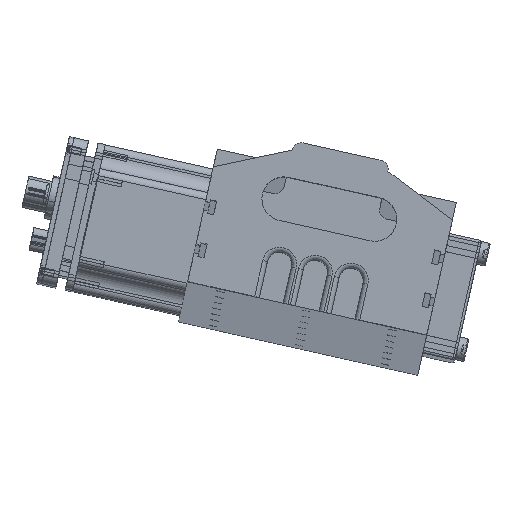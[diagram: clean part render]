
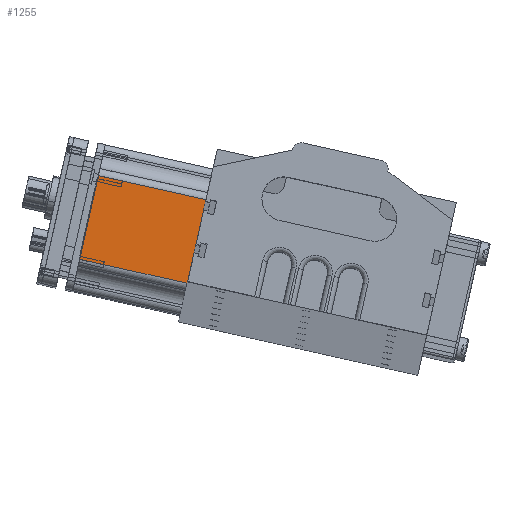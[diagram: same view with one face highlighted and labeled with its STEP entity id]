
A CAD part, front view. The second image highlights one B-rep face of the part: STEP entity #1255.
In plain terms, the highlighted planar face has unit normal (0.003, -1, 0.012) as drawn and (0, 0, 1) by its records, which use the part's own axes.
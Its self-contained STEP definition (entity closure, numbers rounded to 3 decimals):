
#141 = EDGE_CURVE ( 'NONE', #36296, #40871, #3433, .T. ) ;
#144 = VERTEX_POINT ( 'NONE', #3428 ) ;
#857 = ORIENTED_EDGE ( 'NONE', *, *, #141, .T. ) ;
#885 = EDGE_CURVE ( 'NONE', #45926, #40871, #5223, .T. ) ;
#1014 = ORIENTED_EDGE ( 'NONE', *, *, #34348, .F. ) ;
#1127 = ORIENTED_EDGE ( 'NONE', *, *, #45474, .F. ) ;
#1255 = ADVANCED_FACE ( 'NONE', ( #6030 ), #5976, .F. ) ;
#1986 = EDGE_CURVE ( 'NONE', #45192, #144, #7569, .T. ) ;
#3425 = DIRECTION ( 'NONE',  ( 1., 0., 0. ) ) ;
#3426 = VECTOR ( 'NONE', #3425, 1000. ) ;
#3427 = CARTESIAN_POINT ( 'NONE',  ( -24.5, 0., 30.5 ) ) ;
#3428 = CARTESIAN_POINT ( 'NONE',  ( 17.5, 94., 30.5 ) ) ;
#3433 = LINE ( 'NONE', #3427, #3426 ) ;
#5214 = DIRECTION ( 'NONE',  ( 0., -1., 0. ) ) ;
#5215 = VECTOR ( 'NONE', #5214, 1000. ) ;
#5216 = CARTESIAN_POINT ( 'NONE',  ( 24.5, 7., 30.5 ) ) ;
#5223 = LINE ( 'NONE', #5216, #5215 ) ;
#5976 = PLANE ( 'NONE',  #6018 ) ;
#6007 = DIRECTION ( 'NONE',  ( -1., 0., 0. ) ) ;
#6008 = DIRECTION ( 'NONE',  ( 0., 0., -1. ) ) ;
#6009 = CARTESIAN_POINT ( 'NONE',  ( -24.5, 7., 30.5 ) ) ;
#6018 = AXIS2_PLACEMENT_3D ( 'NONE', #6009, #6008, #6007 ) ;
#6030 = FACE_OUTER_BOUND ( 'NONE', #41210, .T. ) ;
#7547 = DIRECTION ( 'NONE',  ( 1., 0., 0. ) ) ;
#7548 = VECTOR ( 'NONE', #7547, 1000. ) ;
#7550 = CARTESIAN_POINT ( 'NONE',  ( 26.5, 94., 30.5 ) ) ;
#7569 = LINE ( 'NONE', #7550, #7548 ) ;
#12648 = ORIENTED_EDGE ( 'NONE', *, *, #14392, .F. ) ;
#13924 = EDGE_CURVE ( 'NONE', #45290, #45926, #23686, .T. ) ;
#14392 = EDGE_CURVE ( 'NONE', #144, #45290, #24512, .T. ) ;
#23674 = DIRECTION ( 'NONE',  ( 1., 0., 0. ) ) ;
#23675 = VECTOR ( 'NONE', #23674, 1000. ) ;
#23685 = CARTESIAN_POINT ( 'NONE',  ( -24.5, 7., 30.5 ) ) ;
#23686 = LINE ( 'NONE', #23685, #23675 ) ;
#24495 = DIRECTION ( 'NONE',  ( 0., -1., 0. ) ) ;
#24496 = VECTOR ( 'NONE', #24495, 1000. ) ;
#24511 = CARTESIAN_POINT ( 'NONE',  ( 17.5, 95.35, 30.5 ) ) ;
#24512 = LINE ( 'NONE', #24511, #24496 ) ;
#33699 = VERTEX_POINT ( 'NONE', #38244 ) ;
#34348 = EDGE_CURVE ( 'NONE', #33699, #34365, #38515, .T. ) ;
#34365 = VERTEX_POINT ( 'NONE', #38507 ) ;
#36296 = VERTEX_POINT ( 'NONE', #39040 ) ;
#36930 = EDGE_CURVE ( 'NONE', #36296, #33699, #39239, .T. ) ;
#38244 = CARTESIAN_POINT ( 'NONE',  ( -24.5, 7., 30.5 ) ) ;
#38507 = CARTESIAN_POINT ( 'NONE',  ( -17.5, 7., 30.5 ) ) ;
#38509 = DIRECTION ( 'NONE',  ( 1., 0., 0. ) ) ;
#38510 = VECTOR ( 'NONE', #38509, 1000. ) ;
#38514 = CARTESIAN_POINT ( 'NONE',  ( -24.5, 7., 30.5 ) ) ;
#38515 = LINE ( 'NONE', #38514, #38510 ) ;
#39040 = CARTESIAN_POINT ( 'NONE',  ( -24.5, 0., 30.5 ) ) ;
#39230 = DIRECTION ( 'NONE',  ( 0., 1., 0. ) ) ;
#39231 = VECTOR ( 'NONE', #39230, 1000. ) ;
#39239 = LINE ( 'NONE', #39244, #39231 ) ;
#39244 = CARTESIAN_POINT ( 'NONE',  ( -24.5, 7., 30.5 ) ) ;
#40193 = CARTESIAN_POINT ( 'NONE',  ( 24.5, 0., 30.5 ) ) ;
#40871 = VERTEX_POINT ( 'NONE', #40193 ) ;
#41157 = CARTESIAN_POINT ( 'NONE',  ( -17.5, 94., 30.5 ) ) ;
#41164 = CARTESIAN_POINT ( 'NONE',  ( -17.5, 7., 30.5 ) ) ;
#41165 = LINE ( 'NONE', #41164, #41230 ) ;
#41175 = CARTESIAN_POINT ( 'NONE',  ( 17.5, 7., 30.5 ) ) ;
#41210 = EDGE_LOOP ( 'NONE', ( #1127, #1014, #46084, #857, #45799, #46769, #12648, #46825 ) ) ;
#41229 = DIRECTION ( 'NONE',  ( 0., 1., 0. ) ) ;
#41230 = VECTOR ( 'NONE', #41229, 1000. ) ;
#41378 = CARTESIAN_POINT ( 'NONE',  ( 24.5, 7., 30.5 ) ) ;
#45192 = VERTEX_POINT ( 'NONE', #41157 ) ;
#45290 = VERTEX_POINT ( 'NONE', #41175 ) ;
#45474 = EDGE_CURVE ( 'NONE', #34365, #45192, #41165, .T. ) ;
#45799 = ORIENTED_EDGE ( 'NONE', *, *, #885, .F. ) ;
#45926 = VERTEX_POINT ( 'NONE', #41378 ) ;
#46084 = ORIENTED_EDGE ( 'NONE', *, *, #36930, .F. ) ;
#46769 = ORIENTED_EDGE ( 'NONE', *, *, #13924, .F. ) ;
#46825 = ORIENTED_EDGE ( 'NONE', *, *, #1986, .F. ) ;
